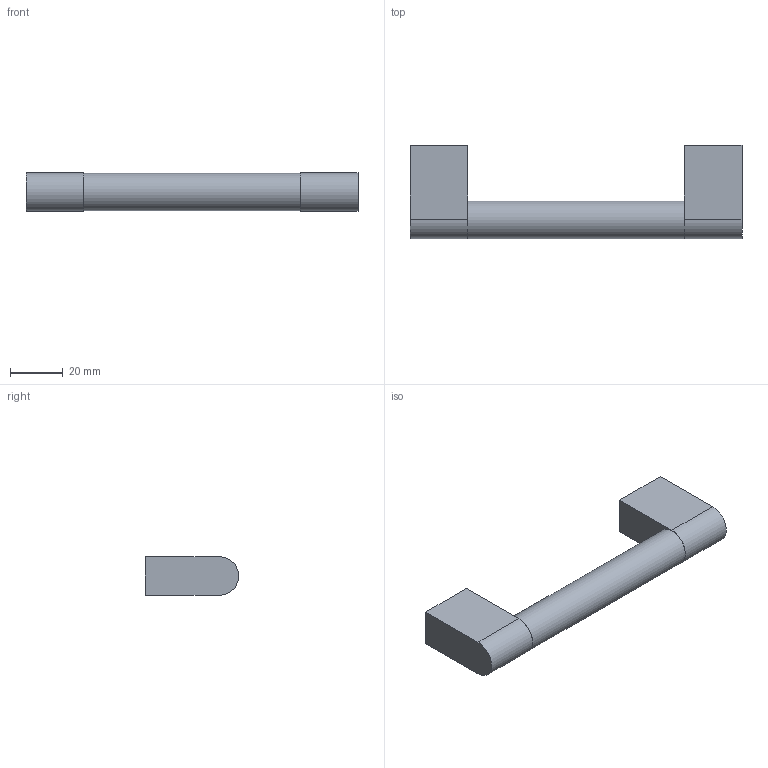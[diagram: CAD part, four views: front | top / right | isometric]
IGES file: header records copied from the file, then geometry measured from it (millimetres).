
Start section: Data from Parasolid IGES Translator 20.0.26, Copyright(c) 2006 Siemens P LM Software. All Rights Reserved.
Global section: file name: 9332316.igs; native system: By Siemens PLM Incorporated; preprocessor: XPlus GENERIC/IGES 20.0.26; author: Noname; organization: Noname; date: 20230829.122340; units: millimetre
Bounding box: 126 x 35.36 x 14.64 mm (x, y, z)
Surface area: 10027.9 mm2 (no closed solid volume)
Topology: 0 solids, 0 shells, 17 faces, 66 edges, 62 vertices
Faces by surface type: extrusion 12, revolution 5
